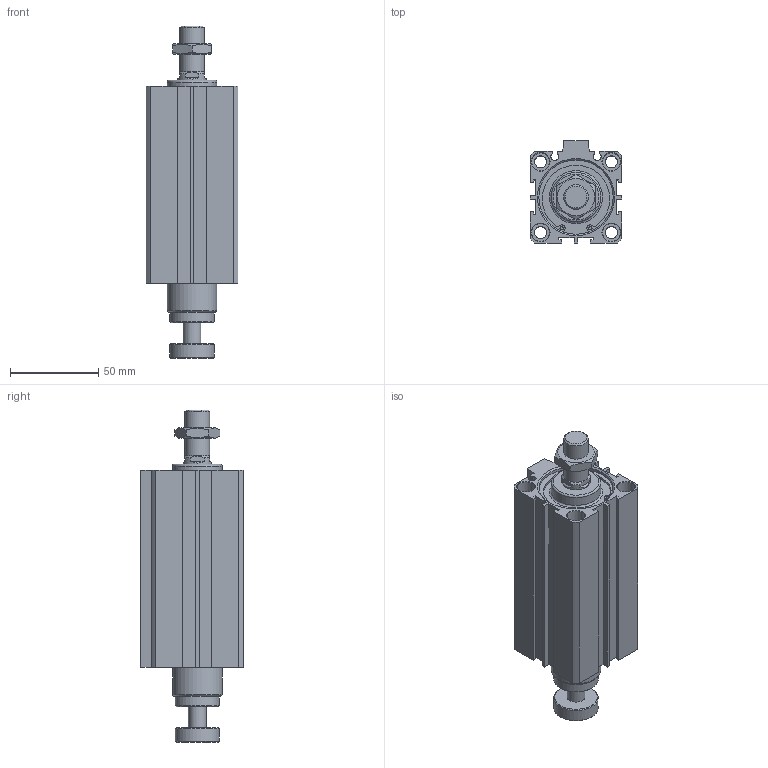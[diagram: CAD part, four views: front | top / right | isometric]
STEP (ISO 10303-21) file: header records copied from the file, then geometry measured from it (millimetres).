
FILE_DESCRIPTION((''),'2;1');
FILE_NAME('I:\3D電子目錄\氣缸\JDAR\JDAR-B\JDAR40-B\JDAR40x85-B.stp','2007-03-14T14:54:44',('662F206'),(''),'Autodesk Inventor 11','Autodesk Inventor 11','');
FILE_SCHEMA(('AUTOMOTIVE_DESIGN { 1 0 10303 214 1 1 1 1 }'));
Length unit declared in the file: millimetre
Products named in the file (3): JDAR40-B; R 形環 42
Assembly tree (3 placements, depth 2):
  JDAR40-B
    JDAR40-B
    R 形環 42  x2
Bounding box: 52 x 58 x 187.8 mm (x, y, z)
Volume: 288936.9 mm3; surface area: 58634 mm2
Topology: 3 solids, 3 shells, 179 faces, 418 edges, 271 vertices
Faces by surface type: plane 100, cylinder 50, cone 25, bspline 2, torus 2
Full cylindrical faces by diameter (mm): 1.9 x4, 2.2 x2, 6.8 x4, 10 x9, 14 x2, 16 x1, 25 x2, 28 x2, 42 x4, 44.5 x2
Entity records: 4585 total; most frequent: CARTESIAN_POINT 873, DIRECTION 770, ORIENTED_EDGE 654, EDGE_CURVE 327, AXIS2_PLACEMENT_3D 292, EDGE_LOOP 260, VERTEX_POINT 245, VECTOR 186
